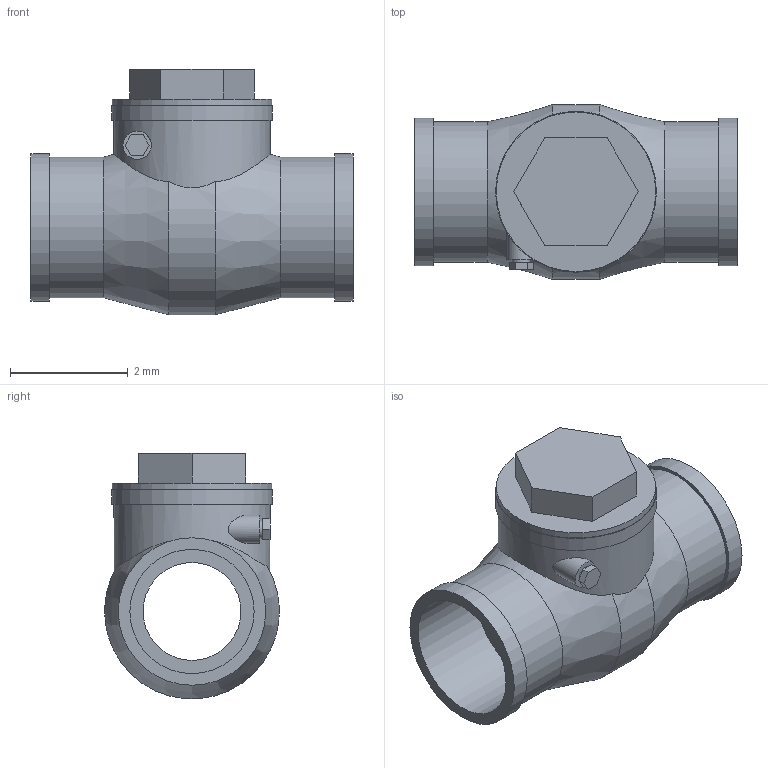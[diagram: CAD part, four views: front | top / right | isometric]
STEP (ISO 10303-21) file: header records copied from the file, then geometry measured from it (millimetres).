
FILE_DESCRIPTION(('Open CASCADE Model'),'2;1');
FILE_NAME('Open CASCADE Shape Model','2022-05-13T09:15:19',('Author'),( 'Open CASCADE'),'Open CASCADE STEP processor 7.3','Open CASCADE 7.3' ,'Unknown');
FILE_SCHEMA(('AUTOMOTIVE_DESIGN { 1 0 10303 214 1 1 1 1 }'));
Length unit declared in the file: millimetre
Products named in the file (1): Open CASCADE STEP translator 7.3 1
Bounding box: 5.46 x 2.96 x 4.16 mm (x, y, z)
Volume: 20.4 mm3; surface area: 121.9 mm2
Topology: 1 solids, 3 shells, 52 faces, 118 edges, 78 vertices
Faces by surface type: plane 31, cylinder 17, cone 4
Full cylindrical faces by diameter (mm): 0.3 x1, 0.48 x1, 1.66 x1, 2.106 x2, 2.38 x4, 2.5 x2, 2.645 x1, 2.706 x1, 2.728 x1
Entity records: 5157 total; most frequent: CARTESIAN_POINT 2776, DIRECTION 428, ORIENTED_EDGE 236, PCURVE 236, DEFINITIONAL_REPRESENTATION 236, LINE 228, VECTOR 228, EDGE_CURVE 118
